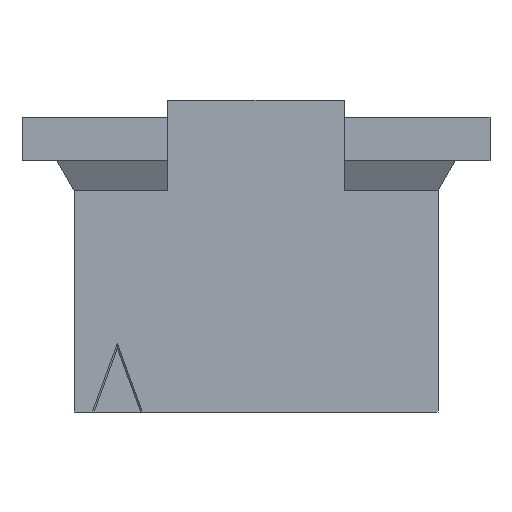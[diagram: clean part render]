
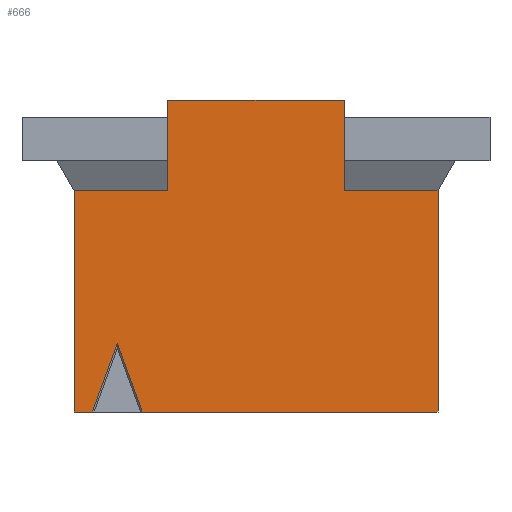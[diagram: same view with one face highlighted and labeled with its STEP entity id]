
A CAD part, front view. The second image highlights one B-rep face of the part: STEP entity #666.
In plain terms, the highlighted planar face has unit normal (0, -1, 0).
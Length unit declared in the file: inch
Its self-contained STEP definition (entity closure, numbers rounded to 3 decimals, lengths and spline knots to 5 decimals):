
#399=FACE_OUTER_BOUND('',#1213,.T.);
#666=ADVANCED_FACE('',(#399),#935,.T.);
#935=PLANE('',#5180);
#1213=EDGE_LOOP('',(#1526,#1527,#1528,#1529,#1530,#1531,#1532,#1533,#1534,
#1535,#1536,#1537,#1538));
#1526=ORIENTED_EDGE('',*,*,#3544,.T.);
#1527=ORIENTED_EDGE('',*,*,#3582,.T.);
#1528=ORIENTED_EDGE('',*,*,#3583,.T.);
#1529=ORIENTED_EDGE('',*,*,#3584,.T.);
#1530=ORIENTED_EDGE('',*,*,#3585,.T.);
#1531=ORIENTED_EDGE('',*,*,#3586,.T.);
#1532=ORIENTED_EDGE('',*,*,#3587,.F.);
#1533=ORIENTED_EDGE('',*,*,#3588,.F.);
#1534=ORIENTED_EDGE('',*,*,#3589,.T.);
#1535=ORIENTED_EDGE('',*,*,#3590,.F.);
#1536=ORIENTED_EDGE('',*,*,#3550,.T.);
#1537=ORIENTED_EDGE('',*,*,#3591,.T.);
#1538=ORIENTED_EDGE('',*,*,#3592,.T.);
#3030=VERTEX_POINT('',#6437);
#3032=VERTEX_POINT('',#6440);
#3037=VERTEX_POINT('',#6450);
#3038=VERTEX_POINT('',#6452);
#3068=VERTEX_POINT('',#6516);
#3069=VERTEX_POINT('',#6518);
#3070=VERTEX_POINT('',#6520);
#3071=VERTEX_POINT('',#6522);
#3072=VERTEX_POINT('',#6524);
#3073=VERTEX_POINT('',#6526);
#3074=VERTEX_POINT('',#6528);
#3075=VERTEX_POINT('',#6530);
#3076=VERTEX_POINT('',#6533);
#3544=EDGE_CURVE('',#3032,#3030,#4316,.T.);
#3550=EDGE_CURVE('',#3038,#3037,#4322,.T.);
#3582=EDGE_CURVE('',#3030,#3068,#4354,.T.);
#3583=EDGE_CURVE('',#3068,#3069,#4355,.T.);
#3584=EDGE_CURVE('',#3069,#3070,#4356,.T.);
#3585=EDGE_CURVE('',#3070,#3071,#4357,.T.);
#3586=EDGE_CURVE('',#3071,#3072,#4358,.T.);
#3587=EDGE_CURVE('',#3073,#3072,#4359,.T.);
#3588=EDGE_CURVE('',#3074,#3073,#4360,.T.);
#3589=EDGE_CURVE('',#3074,#3075,#4361,.T.);
#3590=EDGE_CURVE('',#3038,#3075,#4362,.T.);
#3591=EDGE_CURVE('',#3037,#3076,#4363,.T.);
#3592=EDGE_CURVE('',#3076,#3032,#4364,.T.);
#4316=LINE('',#6439,#4748);
#4322=LINE('',#6451,#4754);
#4354=LINE('',#6515,#4786);
#4355=LINE('',#6517,#4787);
#4356=LINE('',#6519,#4788);
#4357=LINE('',#6521,#4789);
#4358=LINE('',#6523,#4790);
#4359=LINE('',#6525,#4791);
#4360=LINE('',#6527,#4792);
#4361=LINE('',#6529,#4793);
#4362=LINE('',#6531,#4794);
#4363=LINE('',#6532,#4795);
#4364=LINE('',#6534,#4796);
#4748=VECTOR('',#5456,1.);
#4754=VECTOR('',#5462,1.);
#4786=VECTOR('',#5498,1.);
#4787=VECTOR('',#5499,1.);
#4788=VECTOR('',#5500,1.);
#4789=VECTOR('',#5501,1.);
#4790=VECTOR('',#5502,1.);
#4791=VECTOR('',#5503,1.);
#4792=VECTOR('',#5504,1.);
#4793=VECTOR('',#5505,1.);
#4794=VECTOR('',#5506,1.);
#4795=VECTOR('',#5507,1.);
#4796=VECTOR('',#5508,1.);
#5180=AXIS2_PLACEMENT_3D('',#6535,#5509,#5510);
#5456=DIRECTION('',(1.,0.,0.));
#5462=DIRECTION('',(1.,0.,0.));
#5498=DIRECTION('',(0.,0.,1.));
#5499=DIRECTION('',(-1.,0.,0.));
#5500=DIRECTION('',(0.,0.,1.));
#5501=DIRECTION('',(0.,0.,1.));
#5502=DIRECTION('',(-1.,0.,0.));
#5503=DIRECTION('',(0.,0.,1.));
#5504=DIRECTION('',(0.,0.,1.));
#5505=DIRECTION('',(-1.,0.,0.));
#5506=DIRECTION('',(0.,0.,1.));
#5507=DIRECTION('',(0.342,0.,0.94));
#5508=DIRECTION('',(0.342,0.,-0.94));
#5509=DIRECTION('',(0.,-1.,0.));
#5510=DIRECTION('',(0.,0.,-1.));
#6437=CARTESIAN_POINT('',(0.13,-0.035,0.));
#6439=CARTESIAN_POINT('',(0.225,-0.035,0.));
#6440=CARTESIAN_POINT('',(-0.04059,-0.035,0.));
#6450=CARTESIAN_POINT('',(-0.06941,-0.035,0.));
#6451=CARTESIAN_POINT('',(0.225,-0.035,0.));
#6452=CARTESIAN_POINT('',(-0.08,-0.035,0.));
#6515=CARTESIAN_POINT('',(0.13,-0.035,0.));
#6516=CARTESIAN_POINT('',(0.13,-0.035,0.12768));
#6517=CARTESIAN_POINT('',(-0.175,-0.035,0.12768));
#6518=CARTESIAN_POINT('',(0.076,-0.035,0.12768));
#6519=CARTESIAN_POINT('',(0.076,-0.035,0.115));
#6520=CARTESIAN_POINT('',(0.076,-0.035,0.17));
#6521=CARTESIAN_POINT('',(0.076,-0.035,0.115));
#6522=CARTESIAN_POINT('',(0.076,-0.035,0.18));
#6523=CARTESIAN_POINT('',(0.225,-0.035,0.18));
#6524=CARTESIAN_POINT('',(-0.026,-0.035,0.18));
#6525=CARTESIAN_POINT('',(-0.026,-0.035,0.));
#6526=CARTESIAN_POINT('',(-0.026,-0.035,0.17));
#6527=CARTESIAN_POINT('',(-0.026,-0.035,0.));
#6528=CARTESIAN_POINT('',(-0.026,-0.035,0.12768));
#6529=CARTESIAN_POINT('',(0.225,-0.035,0.12768));
#6530=CARTESIAN_POINT('',(-0.08,-0.035,0.12768));
#6531=CARTESIAN_POINT('',(-0.08,-0.035,0.));
#6532=CARTESIAN_POINT('',(-0.05594,-0.035,0.03702));
#6533=CARTESIAN_POINT('',(-0.055,-0.035,0.0396));
#6534=CARTESIAN_POINT('',(-0.04071,-0.035,0.00034));
#6535=CARTESIAN_POINT('',(0.225,-0.035,0.));
